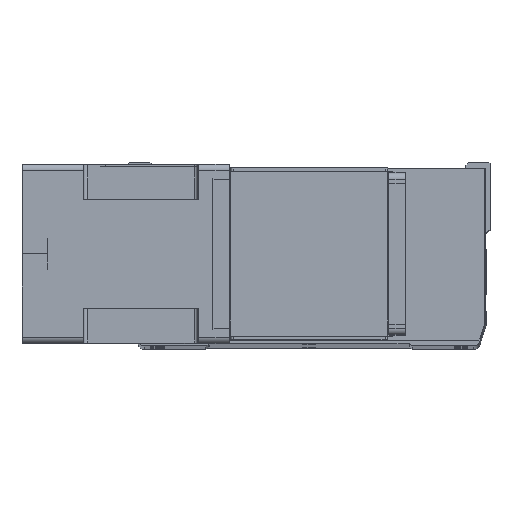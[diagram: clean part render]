
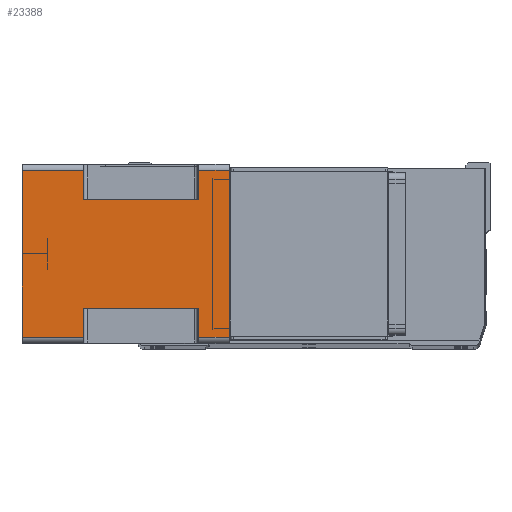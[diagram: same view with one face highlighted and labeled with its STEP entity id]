
A CAD part, top view. The second image highlights one B-rep face of the part: STEP entity #23388.
In plain terms, the highlighted planar face has unit normal (0, 0, 1) as drawn and (-1, 0, 0) by its records, which use the part's own axes.
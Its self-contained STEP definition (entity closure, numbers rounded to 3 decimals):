
#212 = CARTESIAN_POINT ( 'NONE',  ( -71., -66., -115.5 ) ) ;
#1337 = ORIENTED_EDGE ( 'NONE', *, *, #19249, .T. ) ;
#2292 = CARTESIAN_POINT ( 'NONE',  ( -71., 43., -24.5 ) ) ;
#2568 = DIRECTION ( 'NONE',  ( 0., 0., 1. ) ) ;
#3704 = CARTESIAN_POINT ( 'NONE',  ( -71., -43., -24.5 ) ) ;
#4675 = EDGE_CURVE ( 'NONE', #19597, #32486, #26884, .T. ) ;
#4688 = VERTEX_POINT ( 'NONE', #43014 ) ;
#4916 = CARTESIAN_POINT ( 'NONE',  ( -71., -66., -164. ) ) ;
#5381 = LINE ( 'NONE', #31912, #12911 ) ;
#5673 = ORIENTED_EDGE ( 'NONE', *, *, #44249, .F. ) ;
#5807 = ORIENTED_EDGE ( 'NONE', *, *, #38465, .T. ) ;
#5857 = CARTESIAN_POINT ( 'NONE',  ( -71., -66., -164. ) ) ;
#6432 = ORIENTED_EDGE ( 'NONE', *, *, #33565, .T. ) ;
#6607 = CARTESIAN_POINT ( 'NONE',  ( -71., -66., -24.5 ) ) ;
#6908 = ORIENTED_EDGE ( 'NONE', *, *, #4675, .T. ) ;
#8340 = LINE ( 'NONE', #22099, #9420 ) ;
#8628 = CARTESIAN_POINT ( 'NONE',  ( -71., -66., -164. ) ) ;
#9420 = VECTOR ( 'NONE', #15395, 1000. ) ;
#10333 = CARTESIAN_POINT ( 'NONE',  ( -71., 66., -164. ) ) ;
#10364 = VERTEX_POINT ( 'NONE', #30418 ) ;
#10795 = EDGE_LOOP ( 'NONE', ( #6908, #16903, #19001, #6432, #33613, #44099, #21102, #44096, #5673, #1337, #36626, #5807 ) ) ;
#11122 = CARTESIAN_POINT ( 'NONE',  ( -71., 43., -24.5 ) ) ;
#11455 = LINE ( 'NONE', #16861, #28847 ) ;
#11905 = CARTESIAN_POINT ( 'NONE',  ( -71., -43., -115.5 ) ) ;
#12022 = LINE ( 'NONE', #32750, #26653 ) ;
#12074 = DIRECTION ( 'NONE',  ( 0., 0., 1. ) ) ;
#12373 = VERTEX_POINT ( 'NONE', #2292 ) ;
#12814 = VERTEX_POINT ( 'NONE', #3704 ) ;
#12896 = VECTOR ( 'NONE', #13409, 1000. ) ;
#12911 = VECTOR ( 'NONE', #38725, 1000. ) ;
#13273 = EDGE_CURVE ( 'NONE', #26004, #10364, #17128, .T. ) ;
#13409 = DIRECTION ( 'NONE',  ( 0., -1., 0. ) ) ;
#14798 = CARTESIAN_POINT ( 'NONE',  ( -71., 43., -164. ) ) ;
#15395 = DIRECTION ( 'NONE',  ( 0., 1., 0. ) ) ;
#15510 = VERTEX_POINT ( 'NONE', #43811 ) ;
#15883 = VERTEX_POINT ( 'NONE', #11905 ) ;
#16379 = DIRECTION ( 'NONE',  ( 0., -1., 0. ) ) ;
#16521 = LINE ( 'NONE', #14798, #27979 ) ;
#16861 = CARTESIAN_POINT ( 'NONE',  ( -71., -43., -164. ) ) ;
#16903 = ORIENTED_EDGE ( 'NONE', *, *, #26510, .T. ) ;
#17128 = LINE ( 'NONE', #10333, #36695 ) ;
#17622 = VERTEX_POINT ( 'NONE', #37715 ) ;
#18308 = DIRECTION ( 'NONE',  ( 0., 0., 1. ) ) ;
#19001 = ORIENTED_EDGE ( 'NONE', *, *, #22322, .F. ) ;
#19249 = EDGE_CURVE ( 'NONE', #15510, #10364, #8340, .T. ) ;
#19446 = PLANE ( 'NONE',  #25786 ) ;
#19597 = VERTEX_POINT ( 'NONE', #4916 ) ;
#19961 = EDGE_CURVE ( 'NONE', #29803, #12373, #41832, .T. ) ;
#20060 = VECTOR ( 'NONE', #28861, 1000. ) ;
#21102 = ORIENTED_EDGE ( 'NONE', *, *, #33872, .F. ) ;
#21214 = VECTOR ( 'NONE', #38882, 1000. ) ;
#22099 = CARTESIAN_POINT ( 'NONE',  ( -71., -66., -115.5 ) ) ;
#22322 = EDGE_CURVE ( 'NONE', #12814, #15883, #11455, .T. ) ;
#22463 = CARTESIAN_POINT ( 'NONE',  ( -71., 66., -164. ) ) ;
#22703 = DIRECTION ( 'NONE',  ( 0., 1., 0. ) ) ;
#23352 = EDGE_CURVE ( 'NONE', #4688, #17622, #5381, .T. ) ;
#23388 = ADVANCED_FACE ( 'NONE', ( #30352 ), #19446, .T. ) ;
#24381 = LINE ( 'NONE', #37584, #37944 ) ;
#25786 = AXIS2_PLACEMENT_3D ( 'NONE', #40376, #40535, #16379 ) ;
#26004 = VERTEX_POINT ( 'NONE', #22463 ) ;
#26510 = EDGE_CURVE ( 'NONE', #32486, #15883, #12022, .T. ) ;
#26653 = VECTOR ( 'NONE', #22703, 1000. ) ;
#26884 = LINE ( 'NONE', #8628, #43720 ) ;
#27105 = DIRECTION ( 'NONE',  ( 0., 0., 1. ) ) ;
#27979 = VECTOR ( 'NONE', #18308, 1000. ) ;
#28124 = VERTEX_POINT ( 'NONE', #6607 ) ;
#28555 = CARTESIAN_POINT ( 'NONE',  ( -71., -66., -24.5 ) ) ;
#28847 = VECTOR ( 'NONE', #37800, 1000. ) ;
#28861 = DIRECTION ( 'NONE',  ( 0., -1., 0. ) ) ;
#29803 = VERTEX_POINT ( 'NONE', #33063 ) ;
#30352 = FACE_OUTER_BOUND ( 'NONE', #10795, .T. ) ;
#30418 = CARTESIAN_POINT ( 'NONE',  ( -71., 66., -115.5 ) ) ;
#30637 = LINE ( 'NONE', #5857, #33905 ) ;
#31912 = CARTESIAN_POINT ( 'NONE',  ( -71., -66., 0. ) ) ;
#32486 = VERTEX_POINT ( 'NONE', #212 ) ;
#32750 = CARTESIAN_POINT ( 'NONE',  ( -71., -43., -115.5 ) ) ;
#33063 = CARTESIAN_POINT ( 'NONE',  ( -71., 66., -24.5 ) ) ;
#33565 = EDGE_CURVE ( 'NONE', #12814, #28124, #40113, .T. ) ;
#33613 = ORIENTED_EDGE ( 'NONE', *, *, #44363, .T. ) ;
#33872 = EDGE_CURVE ( 'NONE', #29803, #4688, #24381, .T. ) ;
#33905 = VECTOR ( 'NONE', #27105, 1000. ) ;
#36626 = ORIENTED_EDGE ( 'NONE', *, *, #13273, .F. ) ;
#36695 = VECTOR ( 'NONE', #41574, 1000. ) ;
#37341 = LINE ( 'NONE', #40887, #12896 ) ;
#37584 = CARTESIAN_POINT ( 'NONE',  ( -71., 66., -164. ) ) ;
#37715 = CARTESIAN_POINT ( 'NONE',  ( -71., -66., 0. ) ) ;
#37800 = DIRECTION ( 'NONE',  ( 0., 0., -1. ) ) ;
#37944 = VECTOR ( 'NONE', #2568, 1000. ) ;
#38465 = EDGE_CURVE ( 'NONE', #26004, #19597, #37341, .T. ) ;
#38725 = DIRECTION ( 'NONE',  ( 0., -1., 0. ) ) ;
#38882 = DIRECTION ( 'NONE',  ( 0., -1., 0. ) ) ;
#40113 = LINE ( 'NONE', #28555, #20060 ) ;
#40376 = CARTESIAN_POINT ( 'NONE',  ( -71., -66., -164. ) ) ;
#40535 = DIRECTION ( 'NONE',  ( -1., 0., 0. ) ) ;
#40887 = CARTESIAN_POINT ( 'NONE',  ( -71., -66., -164. ) ) ;
#41574 = DIRECTION ( 'NONE',  ( 0., 0., 1. ) ) ;
#41832 = LINE ( 'NONE', #11122, #21214 ) ;
#43014 = CARTESIAN_POINT ( 'NONE',  ( -71., 66., 0. ) ) ;
#43720 = VECTOR ( 'NONE', #12074, 1000. ) ;
#43811 = CARTESIAN_POINT ( 'NONE',  ( -71., 43., -115.5 ) ) ;
#44096 = ORIENTED_EDGE ( 'NONE', *, *, #19961, .T. ) ;
#44099 = ORIENTED_EDGE ( 'NONE', *, *, #23352, .F. ) ;
#44249 = EDGE_CURVE ( 'NONE', #15510, #12373, #16521, .T. ) ;
#44363 = EDGE_CURVE ( 'NONE', #28124, #17622, #30637, .T. ) ;
